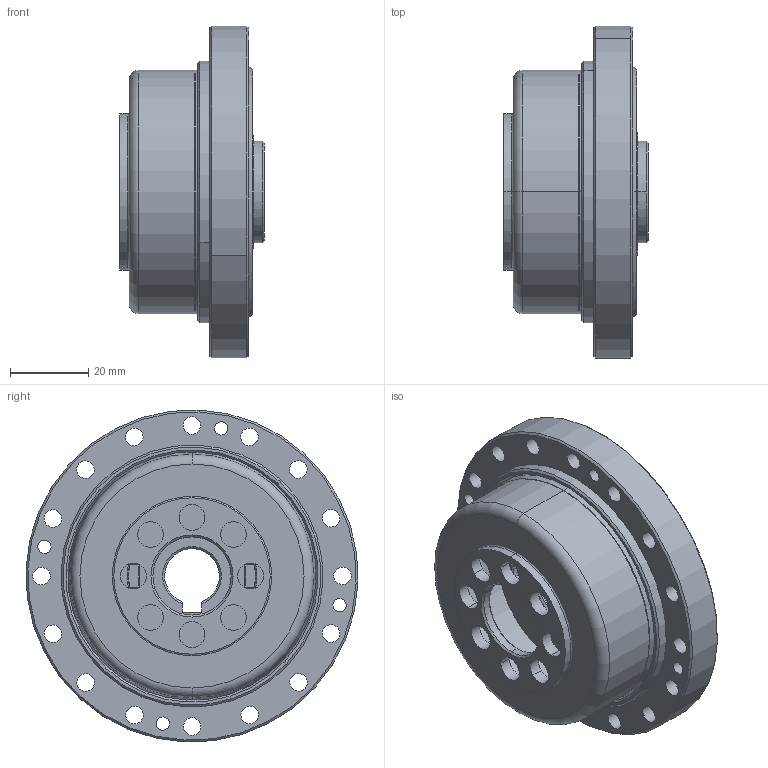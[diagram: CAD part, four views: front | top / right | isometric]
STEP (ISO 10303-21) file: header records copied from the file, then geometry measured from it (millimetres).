
FILE_DESCRIPTION (( 'STEP AP203' ), '1' );
FILE_NAME ('LCS-25-50-P-II.STEP', '2016-09-17T03:43:43', ( 'Windows 蚚誧' ), ( 'Users' ), 'SwSTEP 2.0', 'SolidWorks 2013', '' );
FILE_SCHEMA (( 'CONFIG_CONTROL_DESIGN' ));
Length unit declared in the file: millimetre
Products named in the file (12): LCS-25-50-P-II; DB-25-II; RZC-25内外圈+钢球; 悵厥殤; RZC-25; 粣噤13.5; 疏楷汜ん25-II; LJ-25-II; LCS-25-XXX-P01-II; SZ-25-II; LHS-25-XXX-P02-I; LCS-25-XXX-P03-II
Assembly tree (11 placements, depth 4):
  LCS-25-50-P-II
    疏楷汜ん25-II
      LJ-25-II
      SZ-25-II
      LCS-25-XXX-P03-II
      DB-25-II
      RZC-25
        RZC-25内外圈+钢球
        悵厥殤
      粣噤13.5
    LCS-25-XXX-P01-II
    LHS-25-XXX-P02-I
Bounding box: 37 x 84.92 x 84.92 mm (x, y, z)
Volume: 62599.8 mm3; surface area: 59018.8 mm2
Topology: 9 solids, 9 shells, 522 faces, 1665 edges, 1081 vertices
Faces by surface type: cylinder 213, plane 119, cone 101, sphere 46, torus 43
Entity records: 20598 total; most frequent: CARTESIAN_POINT 5084, DIRECTION 3130, ORIENTED_EDGE 3054, EDGE_CURVE 1527, AXIS2_PLACEMENT_3D 1377, VERTEX_POINT 989, CIRCLE 839, EDGE_LOOP 610
